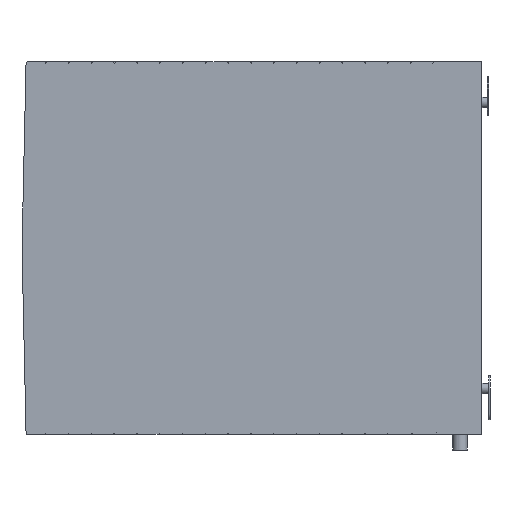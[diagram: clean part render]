
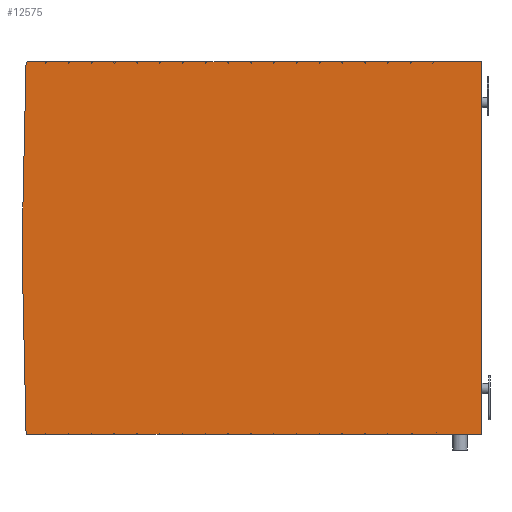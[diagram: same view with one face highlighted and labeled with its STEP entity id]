
A CAD part, left-side view. The second image highlights one B-rep face of the part: STEP entity #12575.
In plain terms, the highlighted planar face has unit normal (-1, 0, 0).
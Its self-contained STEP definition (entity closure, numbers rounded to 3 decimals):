
#42 = EDGE_CURVE ( 'NONE', #20406, #28409, #25126, .T. ) ;
#138 = EDGE_CURVE ( 'NONE', #10860, #15726, #24178, .T. ) ;
#190 = DIRECTION ( 'NONE',  ( -1., 0., 0. ) ) ;
#313 = ORIENTED_EDGE ( 'NONE', *, *, #8050, .T. ) ;
#366 = VERTEX_POINT ( 'NONE', #9993 ) ;
#371 = CARTESIAN_POINT ( 'NONE',  ( -575., -2., -355.498 ) ) ;
#1280 = DIRECTION ( 'NONE',  ( -1., 0., 0. ) ) ;
#1578 = DIRECTION ( 'NONE',  ( 0., 0., -1. ) ) ;
#2089 = ORIENTED_EDGE ( 'NONE', *, *, #25197, .T. ) ;
#3071 = DIRECTION ( 'NONE',  ( 0., -1., 0. ) ) ;
#4007 = CARTESIAN_POINT ( 'NONE',  ( -575., 880.737, -0.039 ) ) ;
#4024 = EDGE_CURVE ( 'NONE', #27559, #6284, #19336, .T. ) ;
#4342 = AXIS2_PLACEMENT_3D ( 'NONE', #19019, #10275, #28188 ) ;
#4388 = CARTESIAN_POINT ( 'NONE',  ( -575., 863.988, -357.478 ) ) ;
#4646 = CIRCLE ( 'NONE', #7027, 2. ) ;
#4709 = CIRCLE ( 'NONE', #20529, 2.9 ) ;
#4784 = ORIENTED_EDGE ( 'NONE', *, *, #8747, .T. ) ;
#5005 = DIRECTION ( 'NONE',  ( 0., 0., -1. ) ) ;
#5507 = DIRECTION ( 'NONE',  ( 0., 1., 0. ) ) ;
#5725 = ORIENTED_EDGE ( 'NONE', *, *, #138, .T. ) ;
#5863 = CARTESIAN_POINT ( 'NONE',  ( -575., 89.3, 357.5 ) ) ;
#5945 = DIRECTION ( 'NONE',  ( 0., -1., 0. ) ) ;
#6284 = VERTEX_POINT ( 'NONE', #19368 ) ;
#6288 = LINE ( 'NONE', #4007, #22394 ) ;
#6588 = CIRCLE ( 'NONE', #21958, 2.9 ) ;
#6921 = DIRECTION ( 'NONE',  ( 0., -1., 0. ) ) ;
#7027 = AXIS2_PLACEMENT_3D ( 'NONE', #23700, #16943, #12278 ) ;
#7074 = LINE ( 'NONE', #8900, #17687 ) ;
#7206 = VERTEX_POINT ( 'NONE', #18015 ) ;
#7333 = CARTESIAN_POINT ( 'NONE',  ( -575., 863.988, -357.478 ) ) ;
#8027 = CARTESIAN_POINT ( 'NONE',  ( -575., 0., 355.5 ) ) ;
#8050 = EDGE_CURVE ( 'NONE', #23798, #20406, #23494, .T. ) ;
#8260 = AXIS2_PLACEMENT_3D ( 'NONE', #27904, #190, #28063 ) ;
#8747 = EDGE_CURVE ( 'NONE', #15501, #23798, #6588, .T. ) ;
#8900 = CARTESIAN_POINT ( 'NONE',  ( -575., 873., 354.642 ) ) ;
#9049 = DIRECTION ( 'NONE',  ( 0., 0.022, -1. ) ) ;
#9189 = CARTESIAN_POINT ( 'NONE',  ( -575., 870.101, -354.578 ) ) ;
#9434 = CARTESIAN_POINT ( 'NONE',  ( -575., 873., -354.642 ) ) ;
#9565 = CARTESIAN_POINT ( 'NONE',  ( -575., 0., -357.498 ) ) ;
#9993 = CARTESIAN_POINT ( 'NONE',  ( -575., 870.101, 357.478 ) ) ;
#10060 = ORIENTED_EDGE ( 'NONE', *, *, #28516, .T. ) ;
#10101 = VECTOR ( 'NONE', #18812, 1000. ) ;
#10275 = DIRECTION ( 'NONE',  ( 1., 0., 0. ) ) ;
#10860 = VERTEX_POINT ( 'NONE', #371 ) ;
#11464 = ORIENTED_EDGE ( 'NONE', *, *, #20779, .T. ) ;
#11862 = VECTOR ( 'NONE', #26257, 1000. ) ;
#12278 = DIRECTION ( 'NONE',  ( 0., 0., -1. ) ) ;
#12575 = ADVANCED_FACE ( 'NONE', ( #19324 ), #25769, .F. ) ;
#13160 = DIRECTION ( 'NONE',  ( 0., -0.022, -1. ) ) ;
#14623 = LINE ( 'NONE', #17236, #11862 ) ;
#14706 = DIRECTION ( 'NONE',  ( -1., 0., 0. ) ) ;
#15501 = VERTEX_POINT ( 'NONE', #9434 ) ;
#15726 = VERTEX_POINT ( 'NONE', #23492 ) ;
#15897 = VECTOR ( 'NONE', #24165, 1000. ) ;
#16382 = CARTESIAN_POINT ( 'NONE',  ( -575., -2., 355.5 ) ) ;
#16422 = ORIENTED_EDGE ( 'NONE', *, *, #17163, .T. ) ;
#16579 = ORIENTED_EDGE ( 'NONE', *, *, #17885, .T. ) ;
#16600 = CARTESIAN_POINT ( 'NONE',  ( -575., 0., 357.5 ) ) ;
#16943 = DIRECTION ( 'NONE',  ( -1., 0., 0. ) ) ;
#17163 = EDGE_CURVE ( 'NONE', #6284, #366, #14623, .T. ) ;
#17236 = CARTESIAN_POINT ( 'NONE',  ( -575., 870.101, 357.478 ) ) ;
#17375 = EDGE_CURVE ( 'NONE', #28409, #29200, #28785, .T. ) ;
#17687 = VECTOR ( 'NONE', #9049, 1000. ) ;
#17885 = EDGE_CURVE ( 'NONE', #29200, #10860, #4646, .T. ) ;
#18015 = CARTESIAN_POINT ( 'NONE',  ( -575., 880.737, 0.039 ) ) ;
#18408 = CIRCLE ( 'NONE', #20275, 2. ) ;
#18567 = CARTESIAN_POINT ( 'NONE',  ( -575., 870.101, -357.478 ) ) ;
#18687 = CARTESIAN_POINT ( 'NONE',  ( -575., 870.101, 354.578 ) ) ;
#18812 = DIRECTION ( 'NONE',  ( 0., 0., 1. ) ) ;
#19019 = CARTESIAN_POINT ( 'NONE',  ( -575., 0., 0. ) ) ;
#19039 = CARTESIAN_POINT ( 'NONE',  ( -575., 83., -357.498 ) ) ;
#19324 = FACE_OUTER_BOUND ( 'NONE', #29789, .T. ) ;
#19336 = LINE ( 'NONE', #28207, #23907 ) ;
#19368 = CARTESIAN_POINT ( 'NONE',  ( -575., 863.988, 357.478 ) ) ;
#19575 = ORIENTED_EDGE ( 'NONE', *, *, #28383, .T. ) ;
#19588 = VECTOR ( 'NONE', #5945, 1000. ) ;
#20256 = ORIENTED_EDGE ( 'NONE', *, *, #17375, .T. ) ;
#20275 = AXIS2_PLACEMENT_3D ( 'NONE', #8027, #1280, #1578 ) ;
#20406 = VERTEX_POINT ( 'NONE', #7333 ) ;
#20529 = AXIS2_PLACEMENT_3D ( 'NONE', #18687, #14706, #23451 ) ;
#20779 = EDGE_CURVE ( 'NONE', #20835, #27559, #26725, .T. ) ;
#20835 = VERTEX_POINT ( 'NONE', #16600 ) ;
#20907 = DIRECTION ( 'NONE',  ( -1., 0., 0. ) ) ;
#21639 = VECTOR ( 'NONE', #6921, 1000. ) ;
#21958 = AXIS2_PLACEMENT_3D ( 'NONE', #9189, #20907, #5005 ) ;
#22394 = VECTOR ( 'NONE', #13160, 1000. ) ;
#23451 = DIRECTION ( 'NONE',  ( 0., 0., -1. ) ) ;
#23492 = CARTESIAN_POINT ( 'NONE',  ( -575., -2., 355.5 ) ) ;
#23494 = LINE ( 'NONE', #18567, #24399 ) ;
#23700 = CARTESIAN_POINT ( 'NONE',  ( -575., 0., -355.498 ) ) ;
#23798 = VERTEX_POINT ( 'NONE', #26717 ) ;
#23907 = VECTOR ( 'NONE', #5507, 1000. ) ;
#23919 = ORIENTED_EDGE ( 'NONE', *, *, #4024, .T. ) ;
#24165 = DIRECTION ( 'NONE',  ( 0., 1., 0. ) ) ;
#24178 = LINE ( 'NONE', #16382, #10101 ) ;
#24333 = EDGE_CURVE ( 'NONE', #366, #26787, #4709, .T. ) ;
#24364 = CARTESIAN_POINT ( 'NONE',  ( -575., 880.737, -0.039 ) ) ;
#24399 = VECTOR ( 'NONE', #3071, 1000. ) ;
#24542 = EDGE_CURVE ( 'NONE', #25942, #15501, #6288, .T. ) ;
#25126 = LINE ( 'NONE', #4388, #21639 ) ;
#25197 = EDGE_CURVE ( 'NONE', #26787, #7206, #7074, .T. ) ;
#25660 = CARTESIAN_POINT ( 'NONE',  ( -575., 873., 354.642 ) ) ;
#25769 = PLANE ( 'NONE',  #4342 ) ;
#25942 = VERTEX_POINT ( 'NONE', #24364 ) ;
#26069 = CARTESIAN_POINT ( 'NONE',  ( -575., 89.3, 357.5 ) ) ;
#26257 = DIRECTION ( 'NONE',  ( 0., 1., 0. ) ) ;
#26470 = ORIENTED_EDGE ( 'NONE', *, *, #24333, .T. ) ;
#26717 = CARTESIAN_POINT ( 'NONE',  ( -575., 870.101, -357.478 ) ) ;
#26725 = LINE ( 'NONE', #5863, #15897 ) ;
#26787 = VERTEX_POINT ( 'NONE', #25660 ) ;
#27390 = ORIENTED_EDGE ( 'NONE', *, *, #42, .T. ) ;
#27559 = VERTEX_POINT ( 'NONE', #26069 ) ;
#27904 = CARTESIAN_POINT ( 'NONE',  ( -575., 878.938, 0. ) ) ;
#28063 = DIRECTION ( 'NONE',  ( 0., 0., -1. ) ) ;
#28172 = CARTESIAN_POINT ( 'NONE',  ( -575., 83., -357.498 ) ) ;
#28188 = DIRECTION ( 'NONE',  ( 0., 0., -1. ) ) ;
#28207 = CARTESIAN_POINT ( 'NONE',  ( -575., 863.988, 357.478 ) ) ;
#28383 = EDGE_CURVE ( 'NONE', #7206, #25942, #28993, .T. ) ;
#28409 = VERTEX_POINT ( 'NONE', #19039 ) ;
#28516 = EDGE_CURVE ( 'NONE', #15726, #20835, #18408, .T. ) ;
#28785 = LINE ( 'NONE', #28172, #19588 ) ;
#28993 = CIRCLE ( 'NONE', #8260, 1.8 ) ;
#29200 = VERTEX_POINT ( 'NONE', #9565 ) ;
#29622 = ORIENTED_EDGE ( 'NONE', *, *, #24542, .T. ) ;
#29789 = EDGE_LOOP ( 'NONE', ( #27390, #20256, #16579, #5725, #10060, #11464, #23919, #16422, #26470, #2089, #19575, #29622, #4784, #313 ) ) ;
